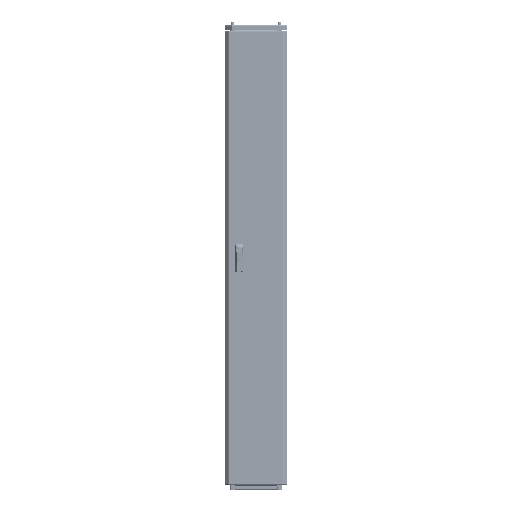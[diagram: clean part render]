
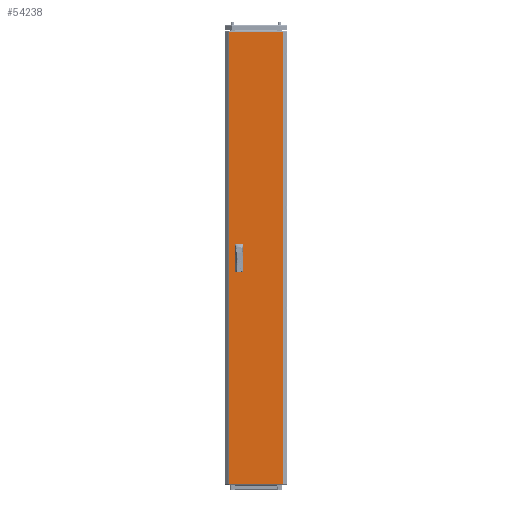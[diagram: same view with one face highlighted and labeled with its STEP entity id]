
A CAD part, top view. The second image highlights one B-rep face of the part: STEP entity #54238.
In plain terms, the highlighted planar face has unit normal (0, 0, 1).
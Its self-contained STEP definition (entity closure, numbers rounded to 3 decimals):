
#1210 = LINE ( 'NONE', #151293, #159156 ) ;
#1472 = CARTESIAN_POINT ( 'NONE',  ( -127.875, 1069.5, 0. ) ) ;
#3838 = EDGE_CURVE ( 'NONE', #98306, #96236, #101566, .T. ) ;
#10963 = DIRECTION ( 'NONE',  ( -1., 0., 0. ) ) ;
#17390 = CARTESIAN_POINT ( 'NONE',  ( -92.5, 12.5, 0. ) ) ;
#20485 = DIRECTION ( 'NONE',  ( 0., 1., 0. ) ) ;
#26083 = CARTESIAN_POINT ( 'NONE',  ( -127.875, -1069.5, 0. ) ) ;
#26293 = EDGE_CURVE ( 'NONE', #225464, #177963, #1210, .T. ) ;
#30035 = CARTESIAN_POINT ( 'NONE',  ( -92.5, 62.5, 0. ) ) ;
#30101 = DIRECTION ( 'NONE',  ( 0., 0., -1. ) ) ;
#31883 = ORIENTED_EDGE ( 'NONE', *, *, #142971, .T. ) ;
#34629 = AXIS2_PLACEMENT_3D ( 'NONE', #147029, #30101, #106375 ) ;
#35663 = CARTESIAN_POINT ( 'NONE',  ( -67.5, 62.5, 0. ) ) ;
#37122 = ORIENTED_EDGE ( 'NONE', *, *, #117200, .T. ) ;
#38137 = DIRECTION ( 'NONE',  ( 1., 0., 0. ) ) ;
#39571 = VECTOR ( 'NONE', #113084, 1000. ) ;
#41647 = ORIENTED_EDGE ( 'NONE', *, *, #212393, .F. ) ;
#44344 = VECTOR ( 'NONE', #238192, 1000. ) ;
#47093 = DIRECTION ( 'NONE',  ( 0., 1., 0. ) ) ;
#48058 = CARTESIAN_POINT ( 'NONE',  ( -92.5, -62.5, 0. ) ) ;
#51629 = ORIENTED_EDGE ( 'NONE', *, *, #118034, .F. ) ;
#51721 = CARTESIAN_POINT ( 'NONE',  ( -67.5, -12.5, 0. ) ) ;
#54238 = ADVANCED_FACE ( 'NONE', ( #158901, #69509, #108924 ), #186458, .F. ) ;
#56256 = ORIENTED_EDGE ( 'NONE', *, *, #122728, .T. ) ;
#56819 = EDGE_CURVE ( 'NONE', #102002, #128821, #166516, .T. ) ;
#59085 = ORIENTED_EDGE ( 'NONE', *, *, #118503, .F. ) ;
#64004 = LINE ( 'NONE', #179671, #44344 ) ;
#64970 = LINE ( 'NONE', #87819, #235704 ) ;
#68213 = ORIENTED_EDGE ( 'NONE', *, *, #159651, .F. ) ;
#69509 = FACE_BOUND ( 'NONE', #97847, .T. ) ;
#70816 = VERTEX_POINT ( 'NONE', #110014 ) ;
#73759 = VERTEX_POINT ( 'NONE', #135126 ) ;
#79111 = VERTEX_POINT ( 'NONE', #35663 ) ;
#80668 = ORIENTED_EDGE ( 'NONE', *, *, #56819, .F. ) ;
#80778 = LINE ( 'NONE', #237115, #146580 ) ;
#83278 = CARTESIAN_POINT ( 'NONE',  ( -92.5, 62.5, 0. ) ) ;
#87339 = LINE ( 'NONE', #91127, #190523 ) ;
#87819 = CARTESIAN_POINT ( 'NONE',  ( -127.875, 1069.5, 0. ) ) ;
#90875 = VERTEX_POINT ( 'NONE', #92910 ) ;
#91127 = CARTESIAN_POINT ( 'NONE',  ( -92.5, -62.5, 0. ) ) ;
#91866 = VECTOR ( 'NONE', #218084, 1000. ) ;
#92910 = CARTESIAN_POINT ( 'NONE',  ( 127.875, -1069.5, 0. ) ) ;
#96236 = VERTEX_POINT ( 'NONE', #132775 ) ;
#97847 = EDGE_LOOP ( 'NONE', ( #245142, #68213, #230271, #181317 ) ) ;
#98306 = VERTEX_POINT ( 'NONE', #48058 ) ;
#98597 = DIRECTION ( 'NONE',  ( 0., -1., 0. ) ) ;
#101566 = LINE ( 'NONE', #212339, #144663 ) ;
#102002 = VERTEX_POINT ( 'NONE', #83278 ) ;
#106375 = DIRECTION ( 'NONE',  ( -1., 0., 0. ) ) ;
#108924 = FACE_OUTER_BOUND ( 'NONE', #232906, .T. ) ;
#110014 = CARTESIAN_POINT ( 'NONE',  ( 127.875, 1069.5, 0. ) ) ;
#110220 = VECTOR ( 'NONE', #10963, 1000. ) ;
#111446 = EDGE_LOOP ( 'NONE', ( #41647, #51629, #59085, #80668 ) ) ;
#112546 = VECTOR ( 'NONE', #20485, 1000. ) ;
#113084 = DIRECTION ( 'NONE',  ( 0., -1., 0. ) ) ;
#117200 = EDGE_CURVE ( 'NONE', #219204, #90875, #120185, .T. ) ;
#118034 = EDGE_CURVE ( 'NONE', #73759, #79111, #234068, .T. ) ;
#118503 = EDGE_CURVE ( 'NONE', #128821, #73759, #130598, .T. ) ;
#120185 = LINE ( 'NONE', #26083, #91866 ) ;
#122728 = EDGE_CURVE ( 'NONE', #149909, #219204, #80778, .T. ) ;
#128821 = VERTEX_POINT ( 'NONE', #143421 ) ;
#130308 = CARTESIAN_POINT ( 'NONE',  ( -127.875, -1069.5, 0. ) ) ;
#130598 = LINE ( 'NONE', #17390, #246850 ) ;
#132775 = CARTESIAN_POINT ( 'NONE',  ( -67.5, -62.5, 0. ) ) ;
#135126 = CARTESIAN_POINT ( 'NONE',  ( -67.5, 12.5, 0. ) ) ;
#136826 = CARTESIAN_POINT ( 'NONE',  ( -92.5, -12.5, 0. ) ) ;
#142971 = EDGE_CURVE ( 'NONE', #90875, #70816, #64004, .T. ) ;
#143421 = CARTESIAN_POINT ( 'NONE',  ( -92.5, 12.5, 0. ) ) ;
#144663 = VECTOR ( 'NONE', #38137, 1000. ) ;
#146580 = VECTOR ( 'NONE', #98597, 1000. ) ;
#147029 = CARTESIAN_POINT ( 'NONE',  ( 0., 0., 0. ) ) ;
#149909 = VERTEX_POINT ( 'NONE', #1472 ) ;
#151293 = CARTESIAN_POINT ( 'NONE',  ( -92.5, -12.5, 0. ) ) ;
#158901 = FACE_BOUND ( 'NONE', #111446, .T. ) ;
#159156 = VECTOR ( 'NONE', #174122, 1000. ) ;
#159651 = EDGE_CURVE ( 'NONE', #96236, #225464, #226339, .T. ) ;
#164694 = VECTOR ( 'NONE', #47093, 1000. ) ;
#166516 = LINE ( 'NONE', #225011, #39571 ) ;
#168656 = DIRECTION ( 'NONE',  ( 0., -1., 0. ) ) ;
#174122 = DIRECTION ( 'NONE',  ( -1., 0., 0. ) ) ;
#177963 = VERTEX_POINT ( 'NONE', #136826 ) ;
#179671 = CARTESIAN_POINT ( 'NONE',  ( 127.875, -1069.5, 0. ) ) ;
#181317 = ORIENTED_EDGE ( 'NONE', *, *, #245655, .F. ) ;
#185646 = CARTESIAN_POINT ( 'NONE',  ( -67.5, -62.5, 0. ) ) ;
#186458 = PLANE ( 'NONE',  #34629 ) ;
#190523 = VECTOR ( 'NONE', #168656, 1000. ) ;
#199652 = CARTESIAN_POINT ( 'NONE',  ( -67.5, 12.5, 0. ) ) ;
#204213 = LINE ( 'NONE', #30035, #110220 ) ;
#212339 = CARTESIAN_POINT ( 'NONE',  ( -92.5, -62.5, 0. ) ) ;
#212393 = EDGE_CURVE ( 'NONE', #79111, #102002, #204213, .T. ) ;
#218084 = DIRECTION ( 'NONE',  ( 1., 0., 0. ) ) ;
#219204 = VERTEX_POINT ( 'NONE', #130308 ) ;
#222594 = DIRECTION ( 'NONE',  ( -1., 0., 0. ) ) ;
#225011 = CARTESIAN_POINT ( 'NONE',  ( -92.5, 12.5, 0. ) ) ;
#225464 = VERTEX_POINT ( 'NONE', #51721 ) ;
#226022 = ORIENTED_EDGE ( 'NONE', *, *, #232839, .T. ) ;
#226339 = LINE ( 'NONE', #185646, #164694 ) ;
#227226 = DIRECTION ( 'NONE',  ( 1., 0., 0. ) ) ;
#230271 = ORIENTED_EDGE ( 'NONE', *, *, #3838, .F. ) ;
#232839 = EDGE_CURVE ( 'NONE', #70816, #149909, #64970, .T. ) ;
#232906 = EDGE_LOOP ( 'NONE', ( #31883, #226022, #56256, #37122 ) ) ;
#234068 = LINE ( 'NONE', #199652, #112546 ) ;
#235704 = VECTOR ( 'NONE', #222594, 1000. ) ;
#237115 = CARTESIAN_POINT ( 'NONE',  ( -127.875, -1069.5, 0. ) ) ;
#238192 = DIRECTION ( 'NONE',  ( 0., 1., 0. ) ) ;
#245142 = ORIENTED_EDGE ( 'NONE', *, *, #26293, .F. ) ;
#245655 = EDGE_CURVE ( 'NONE', #177963, #98306, #87339, .T. ) ;
#246850 = VECTOR ( 'NONE', #227226, 1000. ) ;
